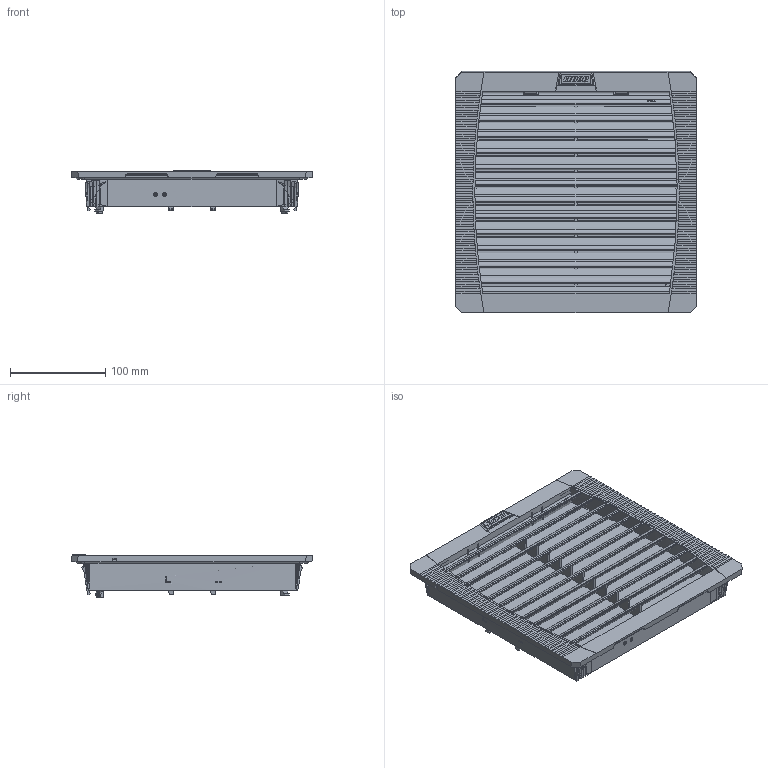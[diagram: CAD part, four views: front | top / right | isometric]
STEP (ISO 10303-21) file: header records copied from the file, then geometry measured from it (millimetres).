
FILE_DESCRIPTION (( 'STEP AP203' ), '1' );
FILE_NAME ('EFA250-300R5_V2.step', '2013-02-08T09:37:11', ( '' ), ( '' ), 'SwSTEP 2.0', 'SolidWorks 2011', '' );
FILE_SCHEMA (( 'CONFIG_CONTROL_DESIGN' ));
Length unit declared in the file: millimetre
Products named in the file (1): EFA250-300R5_V2
Bounding box: 252 x 252.7 x 45.49 mm (x, y, z)
Surface area: 409841.5 mm2 (no closed solid volume)
Topology: 0 solids, 20 shells, 1750 faces, 6656 edges, 4105 vertices
Faces by surface type: plane 701, bspline 533, cylinder 506, cone 10
Entity records: 121032 total; most frequent: CARTESIAN_POINT 77878, ORIENTED_EDGE 10658, EDGE_CURVE 6065, DIRECTION 5688, VERTEX_POINT 4101, B_SPLINE_CURVE_WITH_KNOTS 3055, LINE 2380, VECTOR 2380
